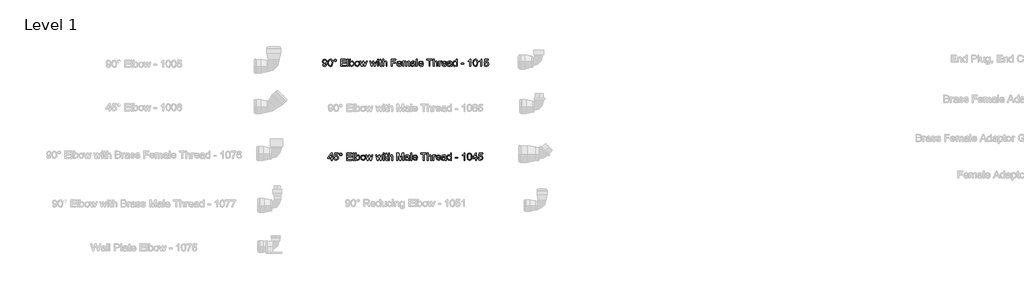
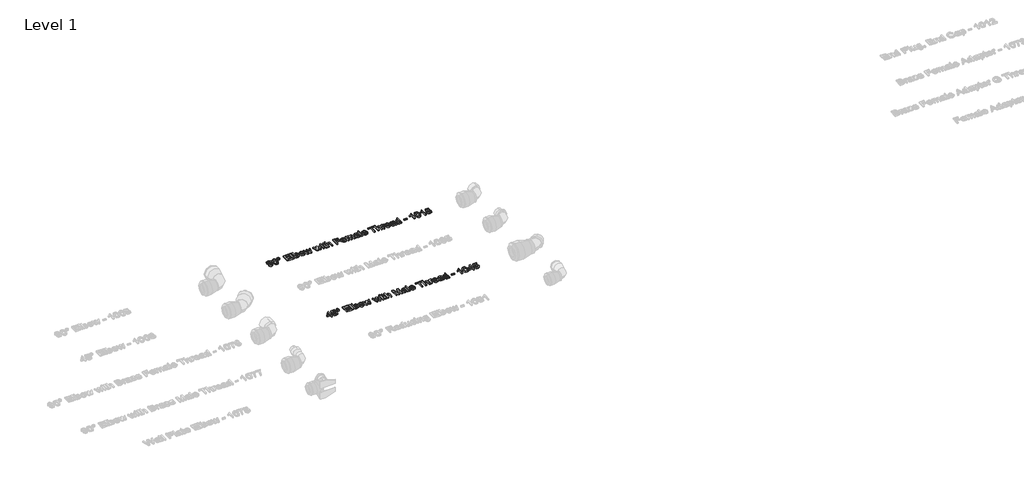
# One storey, part 6 of 13: 2 proxies.
"""IFC4 building model written with IfcOpenShell, lengths in millimetres."""

from ifc_helpers import new_model, si_unit, origin, origin_with_axes, place, context, project, spatial, polyline, outline, extrude, element, save

model = new_model("IFC4")

# Units and contexts
model_context = context("Model", 3, world=origin())
ifc_project = project(units=[si_unit("LENGTHUNIT", "METRE", prefix="MILLI")], contexts=[model_context])

# Site, building, storey
site = spatial("IfcSite", under=ifc_project)
building = spatial("IfcBuilding", under=site)
storey = spatial("IfcBuildingStorey", under=building, Name="Level 1", Elevation=0.0)

# Proxies
placement = place(None, origin())
element("IfcBuildingElementProxy", 1, Name="30 mm Arial", ObjectType="30 mm Arial", at=placement, inside=storey, context=model_context, shape_type="SweptSolid", body=[
    extrude(outline(polyline([(13099.7063371, 4522.9046588), (13099.7063371, 4529.8277357), (13086.3217218, 4529.8277357), (13086.3217218, 4533.5200434), (13100.6294141, 4551.9815818), (13103.3986448, 4551.9815818), (13103.3986448, 4533.5200434), (13107.0909525, 4533.5200434), (13107.0909525, 4529.8277357), (13103.3986448, 4529.8277357), (13103.3986448, 4522.9046588), (13099.7063371, 4522.9046588)]), holes=[polyline([(13099.7063371, 4533.5200434), (13099.7063371, 4544.9286972), (13090.864991, 4533.5200434), (13099.7063371, 4533.5200434)])]), origin_with_axes(), (0.0, 0.0, 1.0), 5.0),
    extrude(outline(polyline([(13110.3217218, 4530.7508126), (13114.0140295, 4531.2123511), (13115.8746064, 4527.4082645), (13119.7327795, 4526.135428), (13124.3625871, 4527.9058607), (13126.0140295, 4532.604178), (13124.4671545, 4536.9887934), (13119.7904718, 4538.5969664), (13116.5488852, 4537.9551395), (13114.4755679, 4536.2892741), (13110.7832602, 4536.7508126), (13114.0140295, 4551.9815818), (13128.3217218, 4551.9815818), (13128.3217218, 4548.2892741), (13116.9996064, 4548.2892741), (13115.4202795, 4540.1546588), (13120.8217218, 4542.2892741), (13127.1354237, 4539.6426395), (13129.7063371, 4532.8349472), (13127.3914333, 4525.9839857), (13119.7183564, 4522.4431203), (13113.2027314, 4524.7183607), (13110.3217218, 4530.7508126)])), origin_with_axes(), (0.0, 0.0, 1.0), 5.0),
    extrude(outline(polyline([(13133.8601833, 4547.3734088), (13135.4863852, 4551.2892741), (13139.3914333, 4552.9046588), (13143.3217218, 4551.2892741), (13144.9371064, 4547.3734088), (13143.3109045, 4543.4539376), (13139.3914333, 4541.8277357), (13135.4863852, 4543.4431203), (13133.8601833, 4547.3734088)]), holes=[polyline([(13136.1678756, 4547.3661972), (13137.1161929, 4545.0801395), (13139.4058564, 4544.135428), (13141.6810968, 4545.0801395), (13142.6294141, 4547.3661972), (13141.6810968, 4549.6522549), (13139.4058564, 4550.5969664), (13137.1161929, 4549.6522549), (13136.1678756, 4547.3661972)])]), origin_with_axes(), (0.0, 0.0, 1.0), 5.0),
    extrude(outline(polyline([(13162.4755679, 4522.9046588), (13162.4755679, 4552.4431203), (13183.7063371, 4552.4431203), (13183.7063371, 4548.7508126), (13166.1678756, 4548.7508126), (13166.1678756, 4539.9815818), (13182.7832602, 4539.9815818), (13182.7832602, 4536.2892741), (13166.1678756, 4536.2892741), (13166.1678756, 4526.5969664), (13184.1678756, 4526.5969664), (13184.1678756, 4522.9046588), (13162.4755679, 4522.9046588)])), origin_with_axes(), (0.0, 0.0, 1.0), 5.0),
    extrude(outline(polyline([(13189.2447987, 4522.9046588), (13189.2447987, 4552.4431203), (13192.9371064, 4552.4431203), (13192.9371064, 4522.9046588), (13189.2447987, 4522.9046588)])), origin_with_axes(), (0.0, 0.0, 1.0), 5.0),
    extrude(outline(polyline([(13202.1678756, 4522.9046588), (13198.4755679, 4522.9046588), (13198.4755679, 4552.4431203), (13202.1678756, 4552.4431203), (13202.1678756, 4541.4887934), (13207.9659525, 4545.0585049), (13211.6654718, 4544.2544184), (13214.5356641, 4541.9936011), (13216.2988852, 4538.4779761), (13216.9371064, 4534.0753318), (13214.2940775, 4525.479178), (13207.9443179, 4522.4431203), (13202.1678756, 4526.3589857), (13202.1678756, 4522.9046588)]), holes=[polyline([(13202.1678756, 4533.9022549), (13203.177491, 4528.7387934), (13207.6270102, 4526.135428), (13211.5789333, 4528.0536972), (13213.2447987, 4533.7724472), (13211.6474429, 4539.5128318), (13207.7856641, 4541.3661972), (13203.833741, 4539.447928), (13202.1678756, 4533.9022549)])]), origin_with_axes(), (0.0, 0.0, 1.0), 5.0),
    extrude(outline(polyline([(13220.1678756, 4533.7508126), (13223.3625871, 4542.6570626), (13229.8673948, 4545.0585049), (13236.8445583, 4542.1342261), (13239.552491, 4534.0536972), (13238.3553756, 4527.4839857), (13234.8685968, 4523.7664376), (13229.8673948, 4522.4431203), (13222.8469621, 4525.3565818), (13220.1678756, 4533.7508126)]), holes=[polyline([(13223.8601833, 4533.7580241), (13225.5693179, 4528.0356684), (13229.8673948, 4526.135428), (13234.1510487, 4528.0464857), (13235.8601833, 4533.8734088), (13234.1402314, 4539.4659568), (13229.8673948, 4541.3661972), (13225.5693179, 4539.4731684), (13223.8601833, 4533.7580241)])]), origin_with_axes(), (0.0, 0.0, 1.0), 5.0),
    extrude(outline(polyline([(13247.3048948, 4522.9046588), (13240.7063371, 4544.5969664), (13244.5428756, 4544.5969664), (13248.2856641, 4531.9407164), (13249.4034525, 4527.4190818), (13250.3193179, 4531.7748511), (13253.2976833, 4544.5969664), (13257.6967218, 4544.5969664), (13260.6606641, 4531.8109088), (13261.4755679, 4527.8661972), (13262.6438371, 4532.0272549), (13266.3938371, 4544.5969664), (13270.2447987, 4544.5969664), (13263.5957602, 4522.9046588), (13259.1318179, 4522.9046588), (13256.2976833, 4535.6258126), (13255.4755679, 4539.5921588), (13251.8193179, 4522.9046588), (13247.3048948, 4522.9046588)])), origin_with_axes(), (0.0, 0.0, 1.0), 5.0),
    extrude(outline(polyline([(13287.9202795, 4522.9046588), (13281.3217218, 4544.5969664), (13285.1582602, 4544.5969664), (13288.9010487, 4531.9407164), (13290.0188371, 4527.4190818), (13290.9347025, 4531.7748511), (13293.9130679, 4544.5969664), (13298.3121064, 4544.5969664), (13301.2760487, 4531.8109088), (13302.0909525, 4527.8661972), (13303.2592218, 4532.0272549), (13307.0092218, 4544.5969664), (13310.8601833, 4544.5969664), (13304.2111448, 4522.9046588), (13299.7472025, 4522.9046588), (13296.9130679, 4535.6258126), (13296.0909525, 4539.5921588), (13292.4347025, 4522.9046588), (13287.9202795, 4522.9046588)])), origin_with_axes(), (0.0, 0.0, 1.0), 5.0),
    extrude(outline(polyline([(13313.3986448, 4548.7508126), (13313.3986448, 4552.4431203), (13317.0909525, 4552.4431203), (13317.0909525, 4548.7508126), (13313.3986448, 4548.7508126)])), origin_with_axes(), (0.0, 0.0, 1.0), 5.0),
    extrude(outline(polyline([(13313.3986448, 4522.9046588), (13313.3986448, 4544.5969664), (13317.0909525, 4544.5969664), (13317.0909525, 4522.9046588), (13313.3986448, 4522.9046588)])), origin_with_axes(), (0.0, 0.0, 1.0), 5.0),
    extrude(outline(polyline([(13330.4755679, 4525.9839857), (13330.9371064, 4522.7964857), (13328.1750871, 4522.4431203), (13325.0813371, 4523.0561011), (13323.5380679, 4524.6642741), (13323.0909525, 4528.854178), (13323.0909525, 4540.9046588), (13320.3217218, 4540.9046588), (13320.3217218, 4544.5969664), (13323.0909525, 4544.5969664), (13323.0909525, 4549.8686011), (13326.7832602, 4552.0392741), (13326.7832602, 4544.5969664), (13330.4755679, 4544.5969664), (13330.4755679, 4540.9046588), (13326.7832602, 4540.9046588), (13326.7832602, 4528.9623511), (13326.9779718, 4527.0585049), (13330.4755679, 4525.9839857)])), origin_with_axes(), (0.0, 0.0, 1.0), 5.0),
    extrude(outline(polyline([(13334.1678756, 4522.9046588), (13334.1678756, 4552.4431203), (13337.8601833, 4552.4431203), (13337.8601833, 4541.5825434), (13344.2856641, 4545.0585049), (13348.4322987, 4544.1101876), (13350.9491256, 4541.4887934), (13351.7063371, 4536.635428), (13351.7063371, 4522.9046588), (13348.0140295, 4522.9046588), (13348.0140295, 4536.2532164), (13346.8385487, 4540.1474472), (13343.5068179, 4541.3661972), (13340.4815775, 4540.5440818), (13338.4623468, 4538.3157164), (13337.8601833, 4534.4286972), (13337.8601833, 4522.9046588), (13334.1678756, 4522.9046588)])), origin_with_axes(), (0.0, 0.0, 1.0), 5.0),
    extrude(outline(polyline([(13368.7832602, 4522.9046588), (13368.7832602, 4552.4431203), (13375.1366256, 4552.4431203), (13381.1798948, 4531.6234088), (13382.3986448, 4527.2748511), (13383.7183564, 4531.9839857), (13389.6606641, 4552.4431203), (13396.0140295, 4552.4431203), (13396.0140295, 4522.9046588), (13392.3217218, 4522.9046588), (13392.3217218, 4548.7508126), (13384.9010487, 4522.9046588), (13379.896241, 4522.9046588), (13372.4755679, 4548.7508126), (13372.4755679, 4522.9046588), (13368.7832602, 4522.9046588)])), origin_with_axes(), (0.0, 0.0, 1.0), 5.0),
    extrude(outline(polyline([(13415.8601833, 4525.6738895), (13412.2796545, 4523.1714857), (13408.3241256, 4522.4431203), (13402.9623468, 4524.1955241), (13401.0909525, 4528.6738895), (13401.7976833, 4531.5945626), (13403.6546545, 4533.7147549), (13406.239991, 4534.9262934), (13409.4347025, 4535.4815818), (13415.8385487, 4536.7508126), (13414.8433564, 4540.2988895), (13410.7616256, 4541.3661972), (13407.0260487, 4540.6558607), (13405.2447987, 4538.135428), (13401.552491, 4538.5969664), (13403.1498468, 4542.2027357), (13406.3661929, 4544.3157164), (13411.2375871, 4545.0585049), (13415.7123468, 4544.4022549), (13418.239991, 4542.7544184), (13419.3722025, 4540.2484088), (13419.552491, 4537.0176395), (13419.552491, 4532.4238895), (13419.739991, 4526.0092261), (13420.4755679, 4522.9046588), (13416.7832602, 4522.9046588), (13415.8601833, 4525.6738895)]), holes=[polyline([(13415.849366, 4532.5356684), (13409.9034525, 4531.9262934), (13406.7267698, 4531.3277357), (13405.2880679, 4530.354178), (13405.8830198, 4526.9359088), (13409.1101833, 4526.135428), (13412.8457602, 4527.0188414), (13415.2544141, 4529.1570626), (13415.849366, 4532.5356684)])]), origin_with_axes(), (0.0, 0.0, 1.0), 5.0),
    extrude(outline(polyline([(13424.6294141, 4522.9046588), (13424.6294141, 4552.4431203), (13428.3217218, 4552.4431203), (13428.3217218, 4522.9046588), (13424.6294141, 4522.9046588)])), origin_with_axes(), (0.0, 0.0, 1.0), 5.0),
    extrude(outline(polyline([(13449.0476833, 4529.3661972), (13452.6678756, 4528.9046588), (13449.2820583, 4524.1378318), (13442.9755679, 4522.4431203), (13435.3097025, 4525.3673991), (13432.4755679, 4533.5705241), (13435.3385487, 4542.0440818), (13442.7664333, 4545.0585049), (13449.9815775, 4542.0512934), (13452.7832602, 4533.5921588), (13436.1678756, 4532.5969664), (13438.2916737, 4527.8012934), (13443.0476833, 4526.135428), (13446.6678756, 4526.9070626), (13449.0476833, 4529.3661972)]), holes=[polyline([(13436.1678756, 4536.2892741), (13449.0909525, 4536.2892741), (13447.6125871, 4539.635428), (13442.7520102, 4541.3661972), (13438.2051352, 4539.9851876), (13436.1678756, 4536.2892741)])]), origin_with_axes(), (0.0, 0.0, 1.0), 5.0),
    extrude(outline(polyline([(13475.8601833, 4522.9046588), (13475.8601833, 4548.7508126), (13466.1678756, 4548.7508126), (13466.1678756, 4552.4431203), (13489.2447987, 4552.4431203), (13489.2447987, 4548.7508126), (13479.552491, 4548.7508126), (13479.552491, 4522.9046588), (13475.8601833, 4522.9046588)])), origin_with_axes(), (0.0, 0.0, 1.0), 5.0),
    extrude(outline(polyline([(13492.9371064, 4522.9046588), (13492.9371064, 4552.4431203), (13496.6294141, 4552.4431203), (13496.6294141, 4541.5825434), (13503.0548948, 4545.0585049), (13507.2015295, 4544.1101876), (13509.7183564, 4541.4887934), (13510.4755679, 4536.635428), (13510.4755679, 4522.9046588), (13506.7832602, 4522.9046588), (13506.7832602, 4536.2532164), (13505.6077795, 4540.1474472), (13502.2760487, 4541.3661972), (13499.2508083, 4540.5440818), (13497.2315775, 4538.3157164), (13496.6294141, 4534.4286972), (13496.6294141, 4522.9046588), (13492.9371064, 4522.9046588)])), origin_with_axes(), (0.0, 0.0, 1.0), 5.0),
    extrude(outline(polyline([(13515.552491, 4522.9046588), (13515.552491, 4544.5969664), (13518.7832602, 4544.5969664), (13518.7832602, 4541.3878318), (13521.0765295, 4544.3445626), (13523.3842218, 4545.0585049), (13527.0909525, 4543.9190818), (13525.8577795, 4540.6089857), (13523.2616256, 4541.3661972), (13521.1738852, 4540.6378318), (13519.8433564, 4538.6186011), (13519.2447987, 4534.3061011), (13519.2447987, 4522.9046588), (13515.552491, 4522.9046588)])), origin_with_axes(), (0.0, 0.0, 1.0), 5.0),
    extrude(outline(polyline([(13544.5861448, 4529.3661972), (13548.2063371, 4528.9046588), (13544.8205198, 4524.1378318), (13538.5140295, 4522.4431203), (13530.8481641, 4525.3673991), (13528.0140295, 4533.5705241), (13530.8770102, 4542.0440818), (13538.3048948, 4545.0585049), (13545.5200391, 4542.0512934), (13548.3217218, 4533.5921588), (13531.7063371, 4532.5969664), (13533.8301352, 4527.8012934), (13538.5861448, 4526.135428), (13542.2063371, 4526.9070626), (13544.5861448, 4529.3661972)]), holes=[polyline([(13531.7063371, 4536.2892741), (13544.6294141, 4536.2892741), (13543.1510487, 4539.635428), (13538.2904718, 4541.3661972), (13533.7435968, 4539.9851876), (13531.7063371, 4536.2892741)])]), origin_with_axes(), (0.0, 0.0, 1.0), 5.0),
    extrude(outline(polyline([(13565.8601833, 4525.6738895), (13562.2796545, 4523.1714857), (13558.3241256, 4522.4431203), (13552.9623468, 4524.1955241), (13551.0909525, 4528.6738895), (13551.7976833, 4531.5945626), (13553.6546545, 4533.7147549), (13556.239991, 4534.9262934), (13559.4347025, 4535.4815818), (13565.8385487, 4536.7508126), (13564.8433564, 4540.2988895), (13560.7616256, 4541.3661972), (13557.0260487, 4540.6558607), (13555.2447987, 4538.135428), (13551.552491, 4538.5969664), (13553.1498468, 4542.2027357), (13556.3661929, 4544.3157164), (13561.2375871, 4545.0585049), (13565.7123468, 4544.4022549), (13568.239991, 4542.7544184), (13569.3722025, 4540.2484088), (13569.552491, 4537.0176395), (13569.552491, 4532.4238895), (13569.739991, 4526.0092261), (13570.4755679, 4522.9046588), (13566.7832602, 4522.9046588), (13565.8601833, 4525.6738895)]), holes=[polyline([(13565.849366, 4532.5356684), (13559.9034525, 4531.9262934), (13556.7267698, 4531.3277357), (13555.2880679, 4530.354178), (13555.8830198, 4526.9359088), (13559.1101833, 4526.135428), (13562.8457602, 4527.0188414), (13565.2544141, 4529.1570626), (13565.849366, 4532.5356684)])]), origin_with_axes(), (0.0, 0.0, 1.0), 5.0),
    extrude(outline(polyline([(13588.0140295, 4522.9046588), (13588.0140295, 4526.3878318), (13582.1943179, 4522.4431203), (13577.6222025, 4523.8710049), (13574.3914333, 4527.8553799), (13573.2447987, 4533.729178), (13574.3012891, 4539.6065818), (13577.4671545, 4543.6522549), (13582.1798948, 4545.0585049), (13585.583741, 4544.0524953), (13588.0140295, 4541.4383126), (13588.0140295, 4552.4431203), (13591.7063371, 4552.4431203), (13591.7063371, 4522.9046588), (13588.0140295, 4522.9046588)]), holes=[polyline([(13576.9371064, 4533.7436011), (13578.6029718, 4528.0284568), (13582.5332602, 4526.135428), (13586.4166737, 4527.9419184), (13588.0140295, 4533.4623511), (13586.3878275, 4539.4551395), (13582.3818179, 4541.3661972), (13578.4947987, 4539.5308607), (13576.9371064, 4533.7436011)])]), origin_with_axes(), (0.0, 0.0, 1.0), 5.0),
    extrude(outline(polyline([(13606.9371064, 4531.6738895), (13606.9371064, 4535.3661972), (13618.4755679, 4535.3661972), (13618.4755679, 4531.6738895), (13606.9371064, 4531.6738895)])), origin_with_axes(), (0.0, 0.0, 1.0), 5.0),
    extrude(outline(polyline([(13647.0909525, 4522.9046588), (13643.3986448, 4522.9046588), (13643.3986448, 4545.9238895), (13639.9010487, 4543.432303), (13636.0140295, 4541.5681203), (13636.0140295, 4545.0585049), (13641.4262891, 4548.5128318), (13644.7111448, 4552.4431203), (13647.0909525, 4552.4431203), (13647.0909525, 4522.9046588)])), origin_with_axes(), (0.0, 0.0, 1.0), 5.0),
    extrude(outline(polyline([(13655.8601833, 4537.4359088), (13656.9455198, 4545.9347068), (13660.1690775, 4550.8349472), (13665.552491, 4552.4431203), (13669.864991, 4551.4911972), (13672.8433564, 4548.7472068), (13674.5741256, 4544.3770145), (13675.2447987, 4537.4359088), (13674.1702795, 4528.9731684), (13670.9575391, 4524.0621107), (13665.552491, 4522.4431203), (13658.802491, 4525.2556203), (13655.8601833, 4537.4359088)]), holes=[polyline([(13659.552491, 4537.4431203), (13661.2832602, 4528.2736491), (13665.552491, 4526.135428), (13669.8217218, 4528.2808607), (13671.552491, 4537.4431203), (13669.8794141, 4546.5080241), (13665.5092218, 4548.7508126), (13661.3409525, 4546.7748511), (13659.552491, 4537.4431203)])]), origin_with_axes(), (0.0, 0.0, 1.0), 5.0),
    extrude(outline(polyline([(13690.4755679, 4522.9046588), (13690.4755679, 4529.8277357), (13677.0909525, 4529.8277357), (13677.0909525, 4533.5200434), (13691.3986448, 4551.9815818), (13694.1678756, 4551.9815818), (13694.1678756, 4533.5200434), (13697.8601833, 4533.5200434), (13697.8601833, 4529.8277357), (13694.1678756, 4529.8277357), (13694.1678756, 4522.9046588), (13690.4755679, 4522.9046588)]), holes=[polyline([(13690.4755679, 4533.5200434), (13690.4755679, 4544.9286972), (13681.6342218, 4533.5200434), (13690.4755679, 4533.5200434)])]), origin_with_axes(), (0.0, 0.0, 1.0), 5.0),
    extrude(outline(polyline([(13701.0909525, 4530.7508126), (13704.7832602, 4531.2123511), (13706.6438371, 4527.4082645), (13710.5020102, 4526.135428), (13715.1318179, 4527.9058607), (13716.7832602, 4532.604178), (13715.2363852, 4536.9887934), (13710.5597025, 4538.5969664), (13707.318116, 4537.9551395), (13705.2447987, 4536.2892741), (13701.552491, 4536.7508126), (13704.7832602, 4551.9815818), (13719.0909525, 4551.9815818), (13719.0909525, 4548.2892741), (13707.7688371, 4548.2892741), (13706.1895102, 4540.1546588), (13711.5909525, 4542.2892741), (13717.9046545, 4539.6426395), (13720.4755679, 4532.8349472), (13718.1606641, 4525.9839857), (13710.4875871, 4522.4431203), (13703.9719621, 4524.7183607), (13701.0909525, 4530.7508126)])), origin_with_axes(), (0.0, 0.0, 1.0), 5.0),
])
element("IfcBuildingElementProxy", 2, Name="30 mm Arial", ObjectType="30 mm Arial", at=placement, inside=storey, context=model_context, shape_type="SweptSolid", body=[
    extrude(outline(polyline([(13064.1678756, 4915.4436925), (13067.8601833, 4915.9052309), (13069.5188371, 4912.3823944), (13072.6630679, 4911.2898463), (13075.6522506, 4911.9929713), (13077.6786929, 4913.8715771), (13078.8866256, 4917.0807117), (13079.4202795, 4921.3643655), (13076.4455198, 4919.2874425), (13072.396241, 4918.2129232), (13066.2267698, 4920.8379232), (13063.7063371, 4927.7537886), (13066.349366, 4934.8932117), (13072.9731641, 4937.5975386), (13078.2339814, 4936.0542694), (13081.8541737, 4931.6552309), (13083.0909525, 4923.3908078), (13081.8577795, 4914.4232598), (13078.1907121, 4909.3427309), (13072.489991, 4907.5975386), (13066.8145102, 4909.6564328), (13064.1678756, 4915.4436925)]), holes=[polyline([(13079.3986448, 4927.8403271), (13077.8048948, 4932.2682117), (13073.5717218, 4933.9052309), (13069.1294141, 4932.1420098), (13067.3986448, 4927.5735001), (13069.0356641, 4923.4809521), (13073.4707602, 4921.9052309), (13077.7291737, 4923.4809521), (13079.3986448, 4927.8403271)])]), origin_with_axes(), (0.0, 0.0, 1.0), 5.0),
    extrude(outline(polyline([(13086.3217218, 4922.5903271), (13087.4070583, 4931.0891251), (13090.630616, 4935.9893655), (13096.0140295, 4937.5975386), (13100.3265295, 4936.6456155), (13103.3048948, 4933.9016251), (13105.0356641, 4929.5314328), (13105.7063371, 4922.5903271), (13104.6318179, 4914.1275867), (13101.4190775, 4909.216529), (13096.0140295, 4907.5975386), (13089.2640295, 4910.4100386), (13086.3217218, 4922.5903271)]), holes=[polyline([(13090.0140295, 4922.5975386), (13091.7447987, 4913.4280675), (13096.0140295, 4911.2898463), (13100.2832602, 4913.435279), (13102.0140295, 4922.5975386), (13100.3409525, 4931.6624425), (13095.9707602, 4933.9052309), (13091.802491, 4931.9292694), (13090.0140295, 4922.5975386)])]), origin_with_axes(), (0.0, 0.0, 1.0), 5.0),
    extrude(outline(polyline([(13109.8601833, 4932.5278271), (13111.4863852, 4936.4436925), (13115.3914333, 4938.0590771), (13119.3217218, 4936.4436925), (13120.9371064, 4932.5278271), (13119.3109045, 4928.6083559), (13115.3914333, 4926.982154), (13111.4863852, 4928.5975386), (13109.8601833, 4932.5278271)]), holes=[polyline([(13112.1678756, 4932.5206155), (13113.1161929, 4930.2345578), (13115.4058564, 4929.2898463), (13117.6810968, 4930.2345578), (13118.6294141, 4932.5206155), (13117.6810968, 4934.8066732), (13115.4058564, 4935.7513848), (13113.1161929, 4934.8066732), (13112.1678756, 4932.5206155)])]), origin_with_axes(), (0.0, 0.0, 1.0), 5.0),
    extrude(outline(polyline([(13138.4755679, 4908.0590771), (13138.4755679, 4937.5975386), (13159.7063371, 4937.5975386), (13159.7063371, 4933.9052309), (13142.1678756, 4933.9052309), (13142.1678756, 4925.1360001), (13158.7832602, 4925.1360001), (13158.7832602, 4921.4436925), (13142.1678756, 4921.4436925), (13142.1678756, 4911.7513848), (13160.1678756, 4911.7513848), (13160.1678756, 4908.0590771), (13138.4755679, 4908.0590771)])), origin_with_axes(), (0.0, 0.0, 1.0), 5.0),
    extrude(outline(polyline([(13165.2447987, 4908.0590771), (13165.2447987, 4937.5975386), (13168.9371064, 4937.5975386), (13168.9371064, 4908.0590771), (13165.2447987, 4908.0590771)])), origin_with_axes(), (0.0, 0.0, 1.0), 5.0),
    extrude(outline(polyline([(13178.1678756, 4908.0590771), (13174.4755679, 4908.0590771), (13174.4755679, 4937.5975386), (13178.1678756, 4937.5975386), (13178.1678756, 4926.6432117), (13183.9659525, 4930.2129232), (13187.6654718, 4929.4088367), (13190.5356641, 4927.1480194), (13192.2988852, 4923.6323944), (13192.9371064, 4919.2297501), (13190.2940775, 4910.6335963), (13183.9443179, 4907.5975386), (13178.1678756, 4911.513404), (13178.1678756, 4908.0590771)]), holes=[polyline([(13178.1678756, 4919.0566732), (13179.177491, 4913.8932117), (13183.6270102, 4911.2898463), (13187.5789333, 4913.2081155), (13189.2447987, 4918.9268655), (13187.6474429, 4924.6672501), (13183.7856641, 4926.5206155), (13179.833741, 4924.6023463), (13178.1678756, 4919.0566732)])]), origin_with_axes(), (0.0, 0.0, 1.0), 5.0),
    extrude(outline(polyline([(13196.1678756, 4918.9052309), (13199.3625871, 4927.8114809), (13205.8673948, 4930.2129232), (13212.8445583, 4927.2886444), (13215.552491, 4919.2081155), (13214.3553756, 4912.638404), (13210.8685968, 4908.9208559), (13205.8673948, 4907.5975386), (13198.8469621, 4910.5110001), (13196.1678756, 4918.9052309)]), holes=[polyline([(13199.8601833, 4918.9124425), (13201.5693179, 4913.1900867), (13205.8673948, 4911.2898463), (13210.1510487, 4913.200904), (13211.8601833, 4919.0278271), (13210.1402314, 4924.6203751), (13205.8673948, 4926.5206155), (13201.5693179, 4924.6275867), (13199.8601833, 4918.9124425)])]), origin_with_axes(), (0.0, 0.0, 1.0), 5.0),
    extrude(outline(polyline([(13223.3048948, 4908.0590771), (13216.7063371, 4929.7513848), (13220.5428756, 4929.7513848), (13224.2856641, 4917.0951348), (13225.4034525, 4912.5735001), (13226.3193179, 4916.9292694), (13229.2976833, 4929.7513848), (13233.6967218, 4929.7513848), (13236.6606641, 4916.9653271), (13237.4755679, 4913.0206155), (13238.6438371, 4917.1816732), (13242.3938371, 4929.7513848), (13246.2447987, 4929.7513848), (13239.5957602, 4908.0590771), (13235.1318179, 4908.0590771), (13232.2976833, 4920.7802309), (13231.4755679, 4924.7465771), (13227.8193179, 4908.0590771), (13223.3048948, 4908.0590771)])), origin_with_axes(), (0.0, 0.0, 1.0), 5.0),
    extrude(outline(polyline([(13263.9202795, 4908.0590771), (13257.3217218, 4929.7513848), (13261.1582602, 4929.7513848), (13264.9010487, 4917.0951348), (13266.0188371, 4912.5735001), (13266.9347025, 4916.9292694), (13269.9130679, 4929.7513848), (13274.3121064, 4929.7513848), (13277.2760487, 4916.9653271), (13278.0909525, 4913.0206155), (13279.2592218, 4917.1816732), (13283.0092218, 4929.7513848), (13286.8601833, 4929.7513848), (13280.2111448, 4908.0590771), (13275.7472025, 4908.0590771), (13272.9130679, 4920.7802309), (13272.0909525, 4924.7465771), (13268.4347025, 4908.0590771), (13263.9202795, 4908.0590771)])), origin_with_axes(), (0.0, 0.0, 1.0), 5.0),
    extrude(outline(polyline([(13289.3986448, 4933.9052309), (13289.3986448, 4937.5975386), (13293.0909525, 4937.5975386), (13293.0909525, 4933.9052309), (13289.3986448, 4933.9052309)])), origin_with_axes(), (0.0, 0.0, 1.0), 5.0),
    extrude(outline(polyline([(13289.3986448, 4908.0590771), (13289.3986448, 4929.7513848), (13293.0909525, 4929.7513848), (13293.0909525, 4908.0590771), (13289.3986448, 4908.0590771)])), origin_with_axes(), (0.0, 0.0, 1.0), 5.0),
    extrude(outline(polyline([(13306.4755679, 4911.138404), (13306.9371064, 4907.950904), (13304.1750871, 4907.5975386), (13301.0813371, 4908.2105194), (13299.5380679, 4909.8186925), (13299.0909525, 4914.0085963), (13299.0909525, 4926.0590771), (13296.3217218, 4926.0590771), (13296.3217218, 4929.7513848), (13299.0909525, 4929.7513848), (13299.0909525, 4935.0230194), (13302.7832602, 4937.1936925), (13302.7832602, 4929.7513848), (13306.4755679, 4929.7513848), (13306.4755679, 4926.0590771), (13302.7832602, 4926.0590771), (13302.7832602, 4914.1167694), (13302.9779718, 4912.2129232), (13306.4755679, 4911.138404)])), origin_with_axes(), (0.0, 0.0, 1.0), 5.0),
    extrude(outline(polyline([(13310.1678756, 4908.0590771), (13310.1678756, 4937.5975386), (13313.8601833, 4937.5975386), (13313.8601833, 4926.7369617), (13320.2856641, 4930.2129232), (13324.4322987, 4929.2646059), (13326.9491256, 4926.6432117), (13327.7063371, 4921.7898463), (13327.7063371, 4908.0590771), (13324.0140295, 4908.0590771), (13324.0140295, 4921.4076348), (13322.8385487, 4925.3018655), (13319.5068179, 4926.5206155), (13316.4815775, 4925.6985001), (13314.4623468, 4923.4701348), (13313.8601833, 4919.5831155), (13313.8601833, 4908.0590771), (13310.1678756, 4908.0590771)])), origin_with_axes(), (0.0, 0.0, 1.0), 5.0),
    extrude(outline(polyline([(13344.7832602, 4908.0590771), (13344.7832602, 4937.5975386), (13364.6294141, 4937.5975386), (13364.6294141, 4933.9052309), (13348.4755679, 4933.9052309), (13348.4755679, 4925.1360001), (13362.3217218, 4925.1360001), (13362.3217218, 4921.4436925), (13348.4755679, 4921.4436925), (13348.4755679, 4908.0590771), (13344.7832602, 4908.0590771)])), origin_with_axes(), (0.0, 0.0, 1.0), 5.0),
    extrude(outline(polyline([(13384.4322987, 4914.5206155), (13388.052491, 4914.0590771), (13384.6666737, 4909.2922501), (13378.3601833, 4907.5975386), (13370.6943179, 4910.5218175), (13367.8601833, 4918.7249425), (13370.7231641, 4927.1985001), (13378.1510487, 4930.2129232), (13385.3661929, 4927.2057117), (13388.1678756, 4918.7465771), (13371.552491, 4917.7513848), (13373.6762891, 4912.9557117), (13378.4322987, 4911.2898463), (13382.052491, 4912.0614809), (13384.4322987, 4914.5206155)]), holes=[polyline([(13371.552491, 4921.4436925), (13384.4755679, 4921.4436925), (13382.9972025, 4924.7898463), (13378.1366256, 4926.5206155), (13373.5897506, 4925.1396059), (13371.552491, 4921.4436925)])]), origin_with_axes(), (0.0, 0.0, 1.0), 5.0),
    extrude(outline(polyline([(13391.8601833, 4908.0590771), (13391.8601833, 4929.7513848), (13395.552491, 4929.7513848), (13395.552491, 4926.1816732), (13398.0909525, 4929.1059521), (13401.7039333, 4930.2129232), (13405.4034525, 4929.0843175), (13407.4371064, 4925.9220578), (13413.9563371, 4930.2129232), (13418.7844621, 4928.4280675), (13420.4755679, 4922.9292694), (13420.4755679, 4908.0590771), (13416.7832602, 4908.0590771), (13416.7832602, 4921.3427309), (13416.4407121, 4924.4256636), (13415.2003275, 4925.9436925), (13413.0909525, 4926.5206155), (13409.4599429, 4925.0422501), (13408.0140295, 4920.3042694), (13408.0140295, 4908.0590771), (13404.3217218, 4908.0590771), (13404.3217218, 4921.7537886), (13403.4671545, 4925.3307117), (13400.6654718, 4926.5206155), (13397.9322987, 4925.7273463), (13396.114991, 4923.4052309), (13395.552491, 4918.9989809), (13395.552491, 4908.0590771), (13391.8601833, 4908.0590771)])), origin_with_axes(), (0.0, 0.0, 1.0), 5.0),
    extrude(outline(polyline([(13439.8601833, 4910.8283078), (13436.2796545, 4908.325904), (13432.3241256, 4907.5975386), (13426.9623468, 4909.3499425), (13425.0909525, 4913.8283078), (13425.7976833, 4916.7489809), (13427.6546545, 4918.8691732), (13430.239991, 4920.0807117), (13433.4347025, 4920.6360001), (13439.8385487, 4921.9052309), (13438.8433564, 4925.4533078), (13434.7616256, 4926.5206155), (13431.0260487, 4925.810279), (13429.2447987, 4923.2898463), (13425.552491, 4923.7513848), (13427.1498468, 4927.357154), (13430.3661929, 4929.4701348), (13435.2375871, 4930.2129232), (13439.7123468, 4929.5566732), (13442.239991, 4927.9088367), (13443.3722025, 4925.4028271), (13443.552491, 4922.1720578), (13443.552491, 4917.5783078), (13443.739991, 4911.1636444), (13444.4755679, 4908.0590771), (13440.7832602, 4908.0590771), (13439.8601833, 4910.8283078)]), holes=[polyline([(13439.849366, 4917.6900867), (13433.9034525, 4917.0807117), (13430.7267698, 4916.482154), (13429.2880679, 4915.5085963), (13429.8830198, 4912.0903271), (13433.1101833, 4911.2898463), (13436.8457602, 4912.1732598), (13439.2544141, 4914.3114809), (13439.849366, 4917.6900867)])]), origin_with_axes(), (0.0, 0.0, 1.0), 5.0),
    extrude(outline(polyline([(13448.6294141, 4908.0590771), (13448.6294141, 4937.5975386), (13452.3217218, 4937.5975386), (13452.3217218, 4908.0590771), (13448.6294141, 4908.0590771)])), origin_with_axes(), (0.0, 0.0, 1.0), 5.0),
    extrude(outline(polyline([(13473.0476833, 4914.5206155), (13476.6678756, 4914.0590771), (13473.2820583, 4909.2922501), (13466.9755679, 4907.5975386), (13459.3097025, 4910.5218175), (13456.4755679, 4918.7249425), (13459.3385487, 4927.1985001), (13466.7664333, 4930.2129232), (13473.9815775, 4927.2057117), (13476.7832602, 4918.7465771), (13460.1678756, 4917.7513848), (13462.2916737, 4912.9557117), (13467.0476833, 4911.2898463), (13470.6678756, 4912.0614809), (13473.0476833, 4914.5206155)]), holes=[polyline([(13460.1678756, 4921.4436925), (13473.0909525, 4921.4436925), (13471.6125871, 4924.7898463), (13466.7520102, 4926.5206155), (13462.2051352, 4925.1396059), (13460.1678756, 4921.4436925)])]), origin_with_axes(), (0.0, 0.0, 1.0), 5.0),
    extrude(outline(polyline([(13499.8601833, 4908.0590771), (13499.8601833, 4933.9052309), (13490.1678756, 4933.9052309), (13490.1678756, 4937.5975386), (13513.2447987, 4937.5975386), (13513.2447987, 4933.9052309), (13503.552491, 4933.9052309), (13503.552491, 4908.0590771), (13499.8601833, 4908.0590771)])), origin_with_axes(), (0.0, 0.0, 1.0), 5.0),
    extrude(outline(polyline([(13516.9371064, 4908.0590771), (13516.9371064, 4937.5975386), (13520.6294141, 4937.5975386), (13520.6294141, 4926.7369617), (13527.0548948, 4930.2129232), (13531.2015295, 4929.2646059), (13533.7183564, 4926.6432117), (13534.4755679, 4921.7898463), (13534.4755679, 4908.0590771), (13530.7832602, 4908.0590771), (13530.7832602, 4921.4076348), (13529.6077795, 4925.3018655), (13526.2760487, 4926.5206155), (13523.2508083, 4925.6985001), (13521.2315775, 4923.4701348), (13520.6294141, 4919.5831155), (13520.6294141, 4908.0590771), (13516.9371064, 4908.0590771)])), origin_with_axes(), (0.0, 0.0, 1.0), 5.0),
    extrude(outline(polyline([(13539.552491, 4908.0590771), (13539.552491, 4929.7513848), (13542.7832602, 4929.7513848), (13542.7832602, 4926.5422501), (13545.0765295, 4929.4989809), (13547.3842218, 4930.2129232), (13551.0909525, 4929.0735001), (13549.8577795, 4925.763404), (13547.2616256, 4926.5206155), (13545.1738852, 4925.7922501), (13543.8433564, 4923.7730194), (13543.2447987, 4919.4605194), (13543.2447987, 4908.0590771), (13539.552491, 4908.0590771)])), origin_with_axes(), (0.0, 0.0, 1.0), 5.0),
    extrude(outline(polyline([(13568.5861448, 4914.5206155), (13572.2063371, 4914.0590771), (13568.8205198, 4909.2922501), (13562.5140295, 4907.5975386), (13554.8481641, 4910.5218175), (13552.0140295, 4918.7249425), (13554.8770102, 4927.1985001), (13562.3048948, 4930.2129232), (13569.5200391, 4927.2057117), (13572.3217218, 4918.7465771), (13555.7063371, 4917.7513848), (13557.8301352, 4912.9557117), (13562.5861448, 4911.2898463), (13566.2063371, 4912.0614809), (13568.5861448, 4914.5206155)]), holes=[polyline([(13555.7063371, 4921.4436925), (13568.6294141, 4921.4436925), (13567.1510487, 4924.7898463), (13562.2904718, 4926.5206155), (13557.7435968, 4925.1396059), (13555.7063371, 4921.4436925)])]), origin_with_axes(), (0.0, 0.0, 1.0), 5.0),
    extrude(outline(polyline([(13589.8601833, 4910.8283078), (13586.2796545, 4908.325904), (13582.3241256, 4907.5975386), (13576.9623468, 4909.3499425), (13575.0909525, 4913.8283078), (13575.7976833, 4916.7489809), (13577.6546545, 4918.8691732), (13580.239991, 4920.0807117), (13583.4347025, 4920.6360001), (13589.8385487, 4921.9052309), (13588.8433564, 4925.4533078), (13584.7616256, 4926.5206155), (13581.0260487, 4925.810279), (13579.2447987, 4923.2898463), (13575.552491, 4923.7513848), (13577.1498468, 4927.357154), (13580.3661929, 4929.4701348), (13585.2375871, 4930.2129232), (13589.7123468, 4929.5566732), (13592.239991, 4927.9088367), (13593.3722025, 4925.4028271), (13593.552491, 4922.1720578), (13593.552491, 4917.5783078), (13593.739991, 4911.1636444), (13594.4755679, 4908.0590771), (13590.7832602, 4908.0590771), (13589.8601833, 4910.8283078)]), holes=[polyline([(13589.849366, 4917.6900867), (13583.9034525, 4917.0807117), (13580.7267698, 4916.482154), (13579.2880679, 4915.5085963), (13579.8830198, 4912.0903271), (13583.1101833, 4911.2898463), (13586.8457602, 4912.1732598), (13589.2544141, 4914.3114809), (13589.849366, 4917.6900867)])]), origin_with_axes(), (0.0, 0.0, 1.0), 5.0),
    extrude(outline(polyline([(13612.0140295, 4908.0590771), (13612.0140295, 4911.5422501), (13606.1943179, 4907.5975386), (13601.6222025, 4909.0254232), (13598.3914333, 4913.0097982), (13597.2447987, 4918.8835963), (13598.3012891, 4924.7610001), (13601.4671545, 4928.8066732), (13606.1798948, 4930.2129232), (13609.583741, 4929.2069136), (13612.0140295, 4926.5927309), (13612.0140295, 4937.5975386), (13615.7063371, 4937.5975386), (13615.7063371, 4908.0590771), (13612.0140295, 4908.0590771)]), holes=[polyline([(13600.9371064, 4918.8980194), (13602.6029718, 4913.1828751), (13606.5332602, 4911.2898463), (13610.4166737, 4913.0963367), (13612.0140295, 4918.6167694), (13610.3878275, 4924.6095578), (13606.3818179, 4926.5206155), (13602.4947987, 4924.685279), (13600.9371064, 4918.8980194)])]), origin_with_axes(), (0.0, 0.0, 1.0), 5.0),
    extrude(outline(polyline([(13630.9371064, 4916.8283078), (13630.9371064, 4920.5206155), (13642.4755679, 4920.5206155), (13642.4755679, 4916.8283078), (13630.9371064, 4916.8283078)])), origin_with_axes(), (0.0, 0.0, 1.0), 5.0),
    extrude(outline(polyline([(13671.0909525, 4908.0590771), (13667.3986448, 4908.0590771), (13667.3986448, 4931.0783078), (13663.9010487, 4928.5867213), (13660.0140295, 4926.7225386), (13660.0140295, 4930.2129232), (13665.4262891, 4933.6672501), (13668.7111448, 4937.5975386), (13671.0909525, 4937.5975386), (13671.0909525, 4908.0590771)])), origin_with_axes(), (0.0, 0.0, 1.0), 5.0),
    extrude(outline(polyline([(13679.8601833, 4922.5903271), (13680.9455198, 4931.0891251), (13684.1690775, 4935.9893655), (13689.552491, 4937.5975386), (13693.864991, 4936.6456155), (13696.8433564, 4933.9016251), (13698.5741256, 4929.5314328), (13699.2447987, 4922.5903271), (13698.1702795, 4914.1275867), (13694.9575391, 4909.216529), (13689.552491, 4907.5975386), (13682.802491, 4910.4100386), (13679.8601833, 4922.5903271)]), holes=[polyline([(13683.552491, 4922.5975386), (13685.2832602, 4913.4280675), (13689.552491, 4911.2898463), (13693.8217218, 4913.435279), (13695.552491, 4922.5975386), (13693.8794141, 4931.6624425), (13689.5092218, 4933.9052309), (13685.3409525, 4931.9292694), (13683.552491, 4922.5975386)])]), origin_with_axes(), (0.0, 0.0, 1.0), 5.0),
    extrude(outline(polyline([(13716.3217218, 4908.0590771), (13712.6294141, 4908.0590771), (13712.6294141, 4931.0783078), (13709.1318179, 4928.5867213), (13705.2447987, 4926.7225386), (13705.2447987, 4930.2129232), (13710.6570583, 4933.6672501), (13713.9419141, 4937.5975386), (13716.3217218, 4937.5975386), (13716.3217218, 4908.0590771)])), origin_with_axes(), (0.0, 0.0, 1.0), 5.0),
    extrude(outline(polyline([(13725.0909525, 4915.9052309), (13728.7832602, 4916.3667694), (13730.6438371, 4912.5626828), (13734.5020102, 4911.2898463), (13739.1318179, 4913.060279), (13740.7832602, 4917.7585963), (13739.2363852, 4922.1432117), (13734.5597025, 4923.7513848), (13731.318116, 4923.1095578), (13729.2447987, 4921.4436925), (13725.552491, 4921.9052309), (13728.7832602, 4937.1360001), (13743.0909525, 4937.1360001), (13743.0909525, 4933.4436925), (13731.7688371, 4933.4436925), (13730.1895102, 4925.3090771), (13735.5909525, 4927.4436925), (13741.9046545, 4924.7970578), (13744.4755679, 4917.9893655), (13742.1606641, 4911.138404), (13734.4875871, 4907.5975386), (13727.9719621, 4909.872779), (13725.0909525, 4915.9052309)])), origin_with_axes(), (0.0, 0.0, 1.0), 5.0),
])

save(model, "model.ifc")
